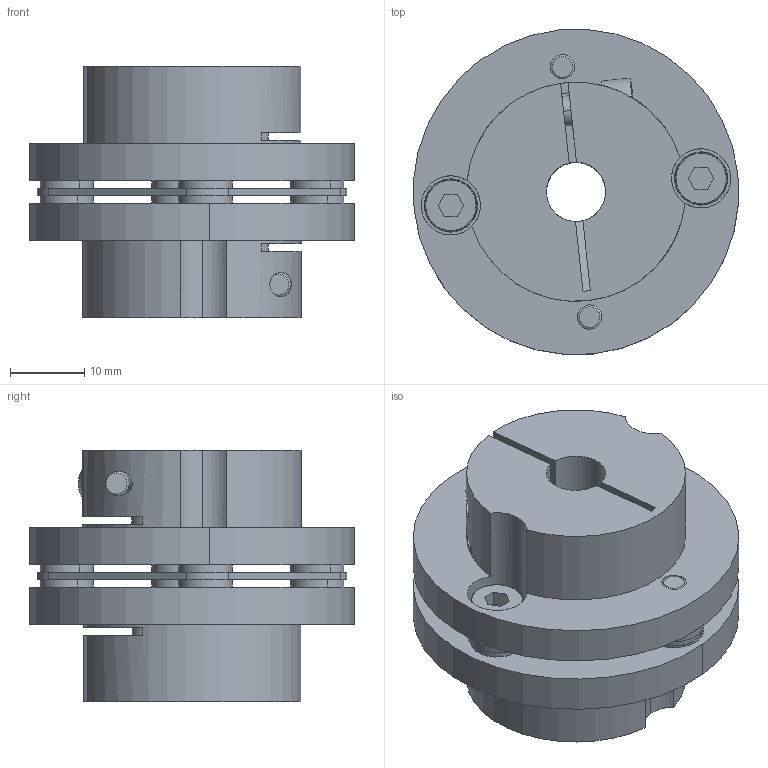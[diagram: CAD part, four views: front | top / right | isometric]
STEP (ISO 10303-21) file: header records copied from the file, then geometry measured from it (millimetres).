
FILE_DESCRIPTION (( 'STEP AP214' ), '1' );
FILE_NAME ('LC-A-040SA-8B-8B.STEP', '2019-09-12T07:19:00', ( 'admin' ), ( 'Microsoft' ), 'SwSTEP 2.0', 'SolidWorks 2016', '' );
FILE_SCHEMA (( 'AUTOMOTIVE_DESIGN' ));
Length unit declared in the file: millimetre
Products named in the file (1): LC-A-040SA-8B-8B
Bounding box: 43.9 x 43.9 x 34 mm (x, y, z)
Volume: 27347.9 mm3; surface area: 16202.9 mm2
Topology: 17 solids, 17 shells, 273 faces, 651 edges, 422 vertices
Faces by surface type: cylinder 129, plane 108, torus 24, cone 12
Entity records: 11492 total; most frequent: CARTESIAN_POINT 1563, DIRECTION 1521, ORIENTED_EDGE 1302, EDGE_CURVE 651, AXIS2_PLACEMENT_3D 608, VERTEX_POINT 422, EDGE_LOOP 337, CIRCLE 334
